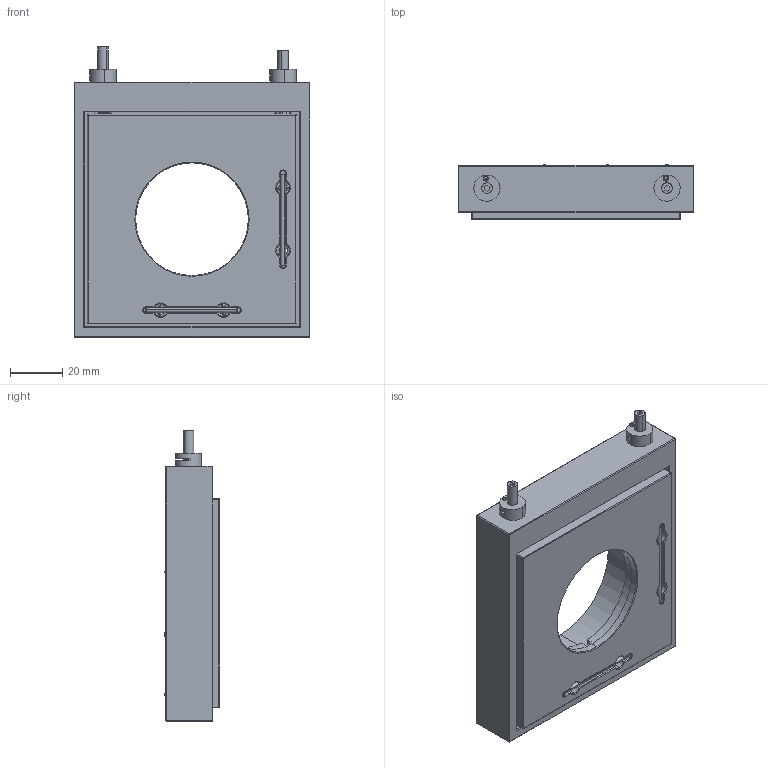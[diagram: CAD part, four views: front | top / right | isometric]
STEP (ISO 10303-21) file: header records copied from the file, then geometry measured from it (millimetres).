
FILE_DESCRIPTION (( 'STEP AP203' ), '1' );
FILE_NAME ('×°ÅäÌå1.STEP', '2024-05-31T02:22:43', ( '' ), ( '' ), 'SwSTEP 2.0', 'SolidWorks 2024', '' );
FILE_SCHEMA (( 'CONFIG_CONTROL_DESIGN' ));
Length unit declared in the file: millimetre
Products named in the file (11): 2小杆; 3; 装配体1; 2短顶杆; 2台面; 长顶杆2; 零件52; 零件24; 0.8×5×12.4弹簧22; 2螺母; 零件42
Assembly tree (19 placements, depth 2):
  装配体1
    2台面
    3
    2小杆  x4
    2螺母  x2
    长顶杆2
    0.8×5×12.4弹簧22  x4
    2短顶杆
    零件42
    零件52  x3
    零件24
Bounding box: 90 x 21.13 x 110.77 mm (x, y, z)
Volume: 119543.1 mm3; surface area: 50508.1 mm2
Topology: 19 solids, 19 shells, 607 faces, 1530 edges, 934 vertices
Faces by surface type: cylinder 228, plane 203, cone 109, bspline 30, torus 19, sphere 18
Entity records: 23661 total; most frequent: CARTESIAN_POINT 10180, ORIENTED_EDGE 2618, DIRECTION 2508, EDGE_CURVE 1309, AXIS2_PLACEMENT_3D 942, VERTEX_POINT 809, LINE 624, VECTOR 624
